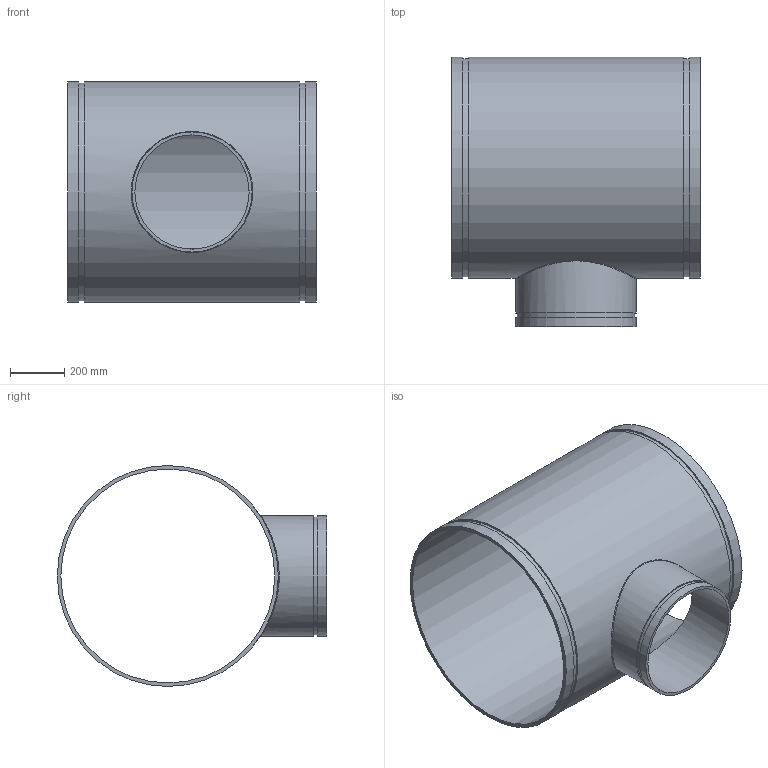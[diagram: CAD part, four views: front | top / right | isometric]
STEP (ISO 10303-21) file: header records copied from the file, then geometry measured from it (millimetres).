
FILE_DESCRIPTION(/* description */ ('VIC REDUCING TEE No 25-C','CAx-IF Rec.Pracs.---Representation and Presentation of Product Manufacturing Information (PMI)---4.0---2014-10-13'),/* implementation_level */ '2;1');
FILE_NAME(/* name */ 'C:\Users\Vjadhav\AppData\Roaming\Autodesk\ApplicationPlugins\Back Up\Victaulic_AWWA_Tee Reducing_No 25-C (DRG)\Victaulic_AWWA_Tee Reducing_No 25-C (DRG)_30.0x16.0 (750x400).stp',/* time_stamp */ '2020-08-18T18:19:18+06:00',/* author */ ('CORINNE GRAY'),/* organization */ ('Victaulic'),/* preprocessor_version */ 'ST-DEVELOPER v17.2',/* originating_system */ 'Autodesk Inventor 2019',/* authorisation */ '');
FILE_SCHEMA (('AP242_MANAGED_MODEL_BASED_3D_ENGINEERING_MIM_LF { 1 0 10303 442 1 1 4 }'));
Length unit declared in the file: inch
Products named in the file (1): 25C-30.0x16.0
Bounding box: 914.4 x 990.6 x 812.8 mm (x, y, z)
Volume: 30334380.8 mm3; surface area: 5020395.9 mm2
Topology: 1 solids, 1 shells, 20 faces, 44 edges, 33 vertices
Faces by surface type: cylinder 10, plane 9, bspline 1
Full cylindrical faces by diameter (mm): 420.116 x1, 433.4 x1, 441.96 x2, 786.892 x1, 801.37 x2, 812.8 x3
Entity records: 1105 total; most frequent: CARTESIAN_POINT 481, DIRECTION 135, ORIENTED_EDGE 90, AXIS2_PLACEMENT_3D 62, EDGE_CURVE 45, VERTEX_POINT 34, EDGE_LOOP 31, CIRCLE 29
